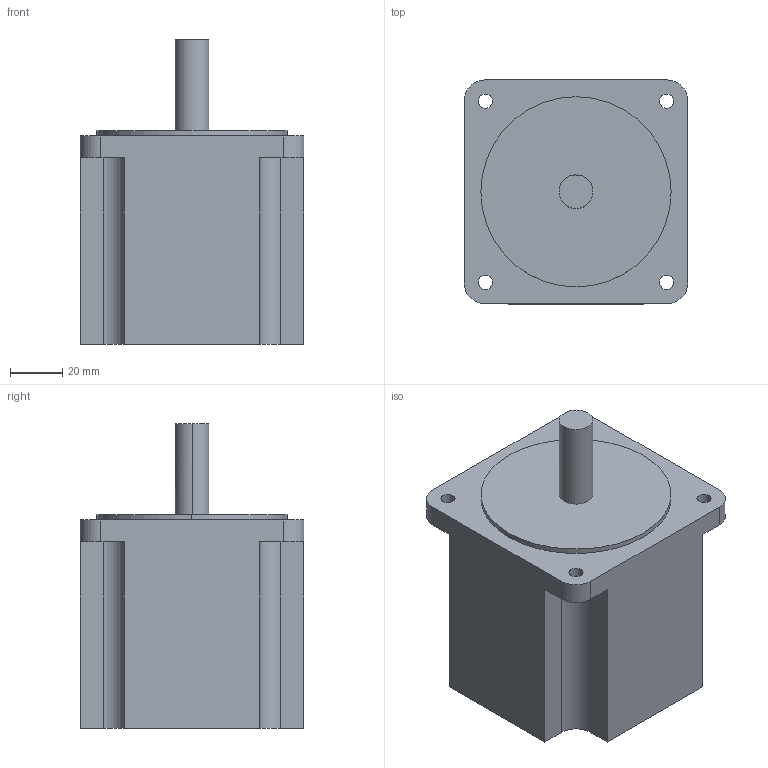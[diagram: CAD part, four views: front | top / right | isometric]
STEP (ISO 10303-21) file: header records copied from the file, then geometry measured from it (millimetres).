
FILE_DESCRIPTION (( 'STEP AP214' ), '1' );
FILE_NAME ('2S86Q-05180.STEP', '2021-01-11T08:26:35', ( '' ), ( '' ), 'SwSTEP 2.0', 'SolidWorks 2020', '' );
FILE_SCHEMA (( 'AUTOMOTIVE_DESIGN' ));
Length unit declared in the file: millimetre
Products named in the file (1): 2S86Q-05180
Bounding box: 85.85 x 85.85 x 117 mm (x, y, z)
Volume: 522499.8 mm3; surface area: 43279.5 mm2
Topology: 1 solids, 1 shells, 42 faces, 114 edges, 76 vertices
Faces by surface type: plane 22, cylinder 20
Entity records: 1390 total; most frequent: DIRECTION 242, CARTESIAN_POINT 233, ORIENTED_EDGE 228, EDGE_CURVE 114, AXIS2_PLACEMENT_3D 85, VERTEX_POINT 76, VECTOR 72, LINE 72
